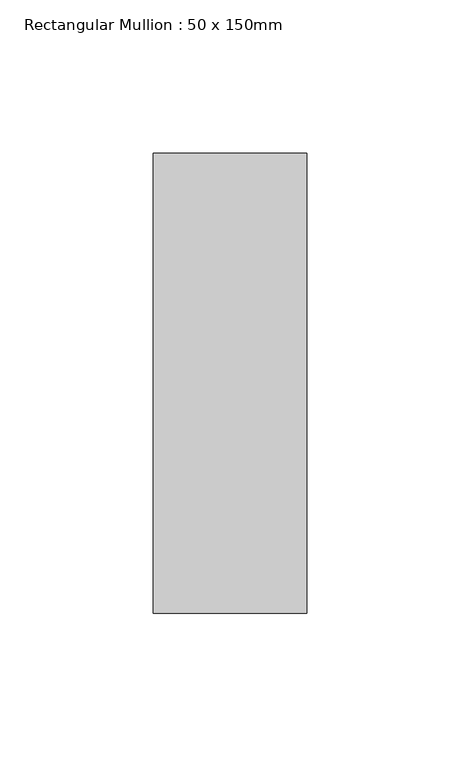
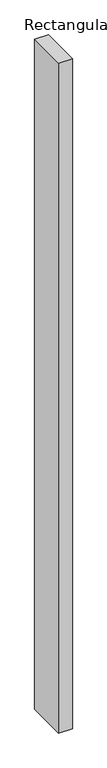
"""IFC4 building model written with IfcOpenShell, lengths in millimetres: member geometry, Rectangular Mullion : 50 x 150mm."""

from ifc_helpers import new_model, si_unit, frame, origin, place, context, project, spatial, polyline, outline, extrude, source, transform, mapped, element, save


def rectangular_mullion_50_x_150mm_33c2bde1(model_context):
    return source(origin(), model_context, "Body", "SweptSolid", [
        extrude(outline(polyline([(25.0, 75.0), (25.0, -75.0), (-25.0, -75.0), (-25.0, 75.0), (25.0, 75.0)])), frame((0.0, 0.0, -2570.0), z_axis=(0.0, 0.0, 1.0), x_axis=(1.0, 0.0, 0.0)), (0.0, 0.0, 1.0), 2570.0),
    ])


if __name__ == "__main__":
    model = new_model("IFC4")
    model_context = context("Model", 3, world=origin())
    ifc_project = project(units=[si_unit("LENGTHUNIT", "METRE", prefix="MILLI")], contexts=[model_context])
    site = spatial("IfcSite", under=ifc_project)
    building = spatial("IfcBuilding", under=site)
    placement = place(None, origin())
    rectangular_mullion_50_x_150mm_shape = rectangular_mullion_50_x_150mm_33c2bde1(model_context)
    element("IfcMember", 1, ObjectType="Rectangular Mullion : 50 x 150mm", at=placement, inside=building, context=model_context, shape_type="MappedRepresentation", body=[
        mapped(rectangular_mullion_50_x_150mm_shape, transform((0.0, 0.0, 0.0), x_axis=(1.0, 0.0, 0.0), y_axis=(0.0, 1.0, 0.0), z_axis=(0.0, 0.0, 1.0))),
    ])
    save(model, "model.ifc")
